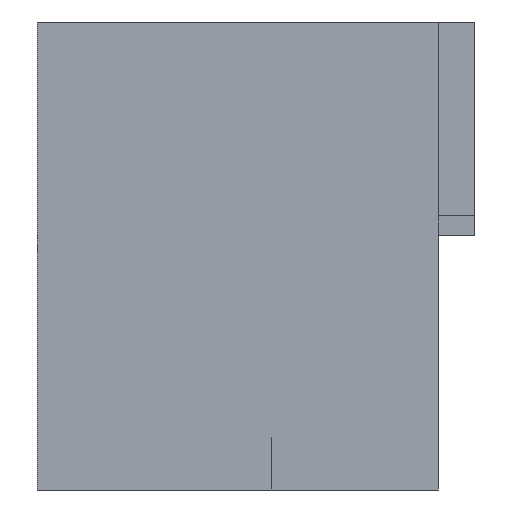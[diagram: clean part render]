
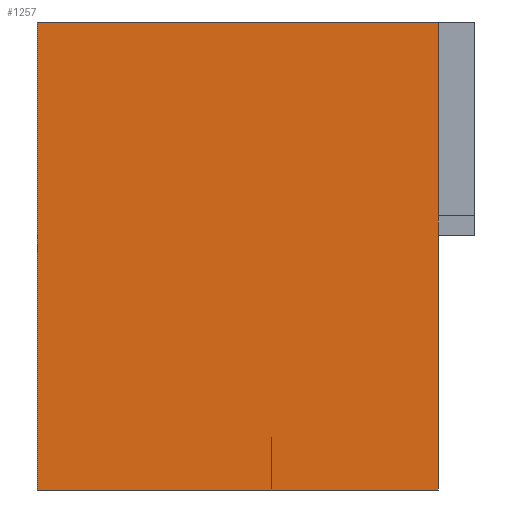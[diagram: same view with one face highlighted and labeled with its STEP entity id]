
A CAD part, front view. The second image highlights one B-rep face of the part: STEP entity #1257.
In plain terms, the highlighted planar face has unit normal (0, -1, 0).
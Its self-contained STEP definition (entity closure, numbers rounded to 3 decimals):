
#72 = PLANE('',#73);
#73 = AXIS2_PLACEMENT_3D('',#74,#75,#76);
#74 = CARTESIAN_POINT('',(38.5,-9.8,1.6));
#75 = DIRECTION('',(1.,0.,0.));
#76 = DIRECTION('',(0.,0.,1.));
#99 = PLANE('',#100);
#100 = AXIS2_PLACEMENT_3D('',#101,#102,#103);
#101 = CARTESIAN_POINT('',(30.5,-11.5,8.6));
#102 = DIRECTION('',(0.,0.,1.));
#103 = DIRECTION('',(1.,0.,0.));
#376 = VERTEX_POINT('',#377);
#377 = CARTESIAN_POINT('',(38.5,-9.8,8.6));
#518 = VERTEX_POINT('',#519);
#519 = CARTESIAN_POINT('',(32.5,-9.8,8.6));
#533 = PLANE('',#534);
#534 = AXIS2_PLACEMENT_3D('',#535,#536,#537);
#535 = CARTESIAN_POINT('',(32.5,-9.8,1.6));
#536 = DIRECTION('',(1.,0.,0.));
#537 = DIRECTION('',(0.,0.,1.));
#544 = EDGE_CURVE('',#518,#376,#545,.T.);
#545 = SURFACE_CURVE('',#546,(#550,#557),.PCURVE_S1.);
#546 = LINE('',#547,#548);
#547 = CARTESIAN_POINT('',(31.5,-9.8,8.6));
#548 = VECTOR('',#549,1.);
#549 = DIRECTION('',(1.,0.,0.));
#550 = PCURVE('',#99,#551);
#551 = DEFINITIONAL_REPRESENTATION('',(#552),#556);
#552 = LINE('',#553,#554);
#553 = CARTESIAN_POINT('',(1.,1.7));
#554 = VECTOR('',#555,1.);
#555 = DIRECTION('',(1.,0.));
#556 = ( GEOMETRIC_REPRESENTATION_CONTEXT(2) 
PARAMETRIC_REPRESENTATION_CONTEXT() REPRESENTATION_CONTEXT('2D SPACE',''
  ) );
#557 = PCURVE('',#558,#563);
#558 = PLANE('',#559);
#559 = AXIS2_PLACEMENT_3D('',#560,#561,#562);
#560 = CARTESIAN_POINT('',(32.5,-9.8,1.6));
#561 = DIRECTION('',(0.,1.,0.));
#562 = DIRECTION('',(0.,-0.,1.));
#563 = DEFINITIONAL_REPRESENTATION('',(#564),#567);
#564 = B_SPLINE_CURVE_WITH_KNOTS('',1,(#565,#566),.UNSPECIFIED.,.F.,.F.,
  (2,2),(1.,7.),.PIECEWISE_BEZIER_KNOTS.);
#565 = CARTESIAN_POINT('',(7.,0.));
#566 = CARTESIAN_POINT('',(7.,6.));
#567 = ( GEOMETRIC_REPRESENTATION_CONTEXT(2) 
PARAMETRIC_REPRESENTATION_CONTEXT() REPRESENTATION_CONTEXT('2D SPACE',''
  ) );
#678 = EDGE_CURVE('',#679,#376,#681,.T.);
#679 = VERTEX_POINT('',#680);
#680 = CARTESIAN_POINT('',(38.5,-9.8,1.6));
#681 = SURFACE_CURVE('',#682,(#686,#693),.PCURVE_S1.);
#682 = LINE('',#683,#684);
#683 = CARTESIAN_POINT('',(38.5,-9.8,1.6));
#684 = VECTOR('',#685,1.);
#685 = DIRECTION('',(0.,0.,1.));
#686 = PCURVE('',#72,#687);
#687 = DEFINITIONAL_REPRESENTATION('',(#688),#692);
#688 = LINE('',#689,#690);
#689 = CARTESIAN_POINT('',(0.,0.));
#690 = VECTOR('',#691,1.);
#691 = DIRECTION('',(1.,0.));
#692 = ( GEOMETRIC_REPRESENTATION_CONTEXT(2) 
PARAMETRIC_REPRESENTATION_CONTEXT() REPRESENTATION_CONTEXT('2D SPACE',''
  ) );
#693 = PCURVE('',#558,#694);
#694 = DEFINITIONAL_REPRESENTATION('',(#695),#699);
#695 = LINE('',#696,#697);
#696 = CARTESIAN_POINT('',(0.,6.));
#697 = VECTOR('',#698,1.);
#698 = DIRECTION('',(1.,0.));
#699 = ( GEOMETRIC_REPRESENTATION_CONTEXT(2) 
PARAMETRIC_REPRESENTATION_CONTEXT() REPRESENTATION_CONTEXT('2D SPACE',''
  ) );
#717 = PLANE('',#718);
#718 = AXIS2_PLACEMENT_3D('',#719,#720,#721);
#719 = CARTESIAN_POINT('',(32.5,-9.8,1.6));
#720 = DIRECTION('',(0.,0.,1.));
#721 = DIRECTION('',(1.,0.,-0.));
#1257 = ADVANCED_FACE('',(#1258),#558,.F.);
#1258 = FACE_BOUND('',#1259,.F.);
#1259 = EDGE_LOOP('',(#1260,#1261,#1284,#1305));
#1260 = ORIENTED_EDGE('',*,*,#678,.F.);
#1261 = ORIENTED_EDGE('',*,*,#1262,.F.);
#1262 = EDGE_CURVE('',#1263,#679,#1265,.T.);
#1263 = VERTEX_POINT('',#1264);
#1264 = CARTESIAN_POINT('',(32.5,-9.8,1.6));
#1265 = SURFACE_CURVE('',#1266,(#1270,#1277),.PCURVE_S1.);
#1266 = LINE('',#1267,#1268);
#1267 = CARTESIAN_POINT('',(32.5,-9.8,1.6));
#1268 = VECTOR('',#1269,1.);
#1269 = DIRECTION('',(1.,0.,0.));
#1270 = PCURVE('',#558,#1271);
#1271 = DEFINITIONAL_REPRESENTATION('',(#1272),#1276);
#1272 = LINE('',#1273,#1274);
#1273 = CARTESIAN_POINT('',(0.,0.));
#1274 = VECTOR('',#1275,1.);
#1275 = DIRECTION('',(0.,1.));
#1276 = ( GEOMETRIC_REPRESENTATION_CONTEXT(2) 
PARAMETRIC_REPRESENTATION_CONTEXT() REPRESENTATION_CONTEXT('2D SPACE',''
  ) );
#1277 = PCURVE('',#717,#1278);
#1278 = DEFINITIONAL_REPRESENTATION('',(#1279),#1283);
#1279 = LINE('',#1280,#1281);
#1280 = CARTESIAN_POINT('',(0.,0.));
#1281 = VECTOR('',#1282,1.);
#1282 = DIRECTION('',(1.,0.));
#1283 = ( GEOMETRIC_REPRESENTATION_CONTEXT(2) 
PARAMETRIC_REPRESENTATION_CONTEXT() REPRESENTATION_CONTEXT('2D SPACE',''
  ) );
#1284 = ORIENTED_EDGE('',*,*,#1285,.T.);
#1285 = EDGE_CURVE('',#1263,#518,#1286,.T.);
#1286 = SURFACE_CURVE('',#1287,(#1291,#1298),.PCURVE_S1.);
#1287 = LINE('',#1288,#1289);
#1288 = CARTESIAN_POINT('',(32.5,-9.8,1.6));
#1289 = VECTOR('',#1290,1.);
#1290 = DIRECTION('',(0.,0.,1.));
#1291 = PCURVE('',#558,#1292);
#1292 = DEFINITIONAL_REPRESENTATION('',(#1293),#1297);
#1293 = LINE('',#1294,#1295);
#1294 = CARTESIAN_POINT('',(0.,0.));
#1295 = VECTOR('',#1296,1.);
#1296 = DIRECTION('',(1.,0.));
#1297 = ( GEOMETRIC_REPRESENTATION_CONTEXT(2) 
PARAMETRIC_REPRESENTATION_CONTEXT() REPRESENTATION_CONTEXT('2D SPACE',''
  ) );
#1298 = PCURVE('',#533,#1299);
#1299 = DEFINITIONAL_REPRESENTATION('',(#1300),#1304);
#1300 = LINE('',#1301,#1302);
#1301 = CARTESIAN_POINT('',(0.,0.));
#1302 = VECTOR('',#1303,1.);
#1303 = DIRECTION('',(1.,0.));
#1304 = ( GEOMETRIC_REPRESENTATION_CONTEXT(2) 
PARAMETRIC_REPRESENTATION_CONTEXT() REPRESENTATION_CONTEXT('2D SPACE',''
  ) );
#1305 = ORIENTED_EDGE('',*,*,#544,.T.);
